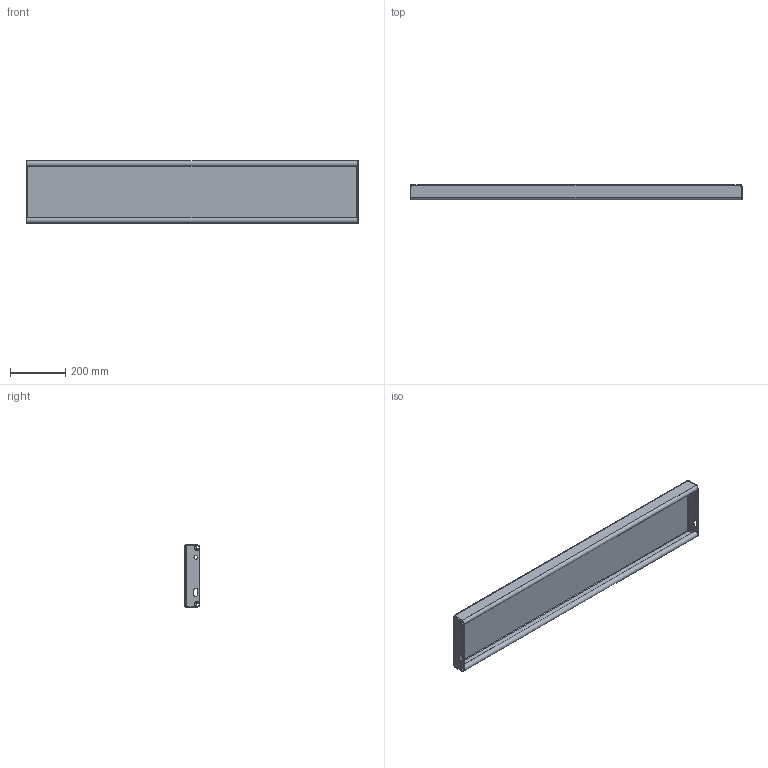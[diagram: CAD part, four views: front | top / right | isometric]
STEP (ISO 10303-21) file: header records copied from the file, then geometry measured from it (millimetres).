
FILE_DESCRIPTION (( 'STEP AP214' ), '1' );
FILE_NAME ('OPTIMO-Tread-Achil-O2-1200x225x57x2-st240-F100290100_plain.STEP', '2021-03-16T08:01:44', ( '' ), ( '' ), 'SwSTEP 2.0', 'SolidWorks 2021', '' );
FILE_SCHEMA (( 'AUTOMOTIVE_DESIGN' ));
Length unit declared in the file: millimetre
Products named in the file (1): OPTIMO-Tread-Achil-O2-1200x225x57x2-st240-F100290100_plain
Bounding box: 1200 x 57 x 225 mm (x, y, z)
Volume: 1751840.7 mm3; surface area: 1025391.3 mm2
Topology: 1 solids, 1 shells, 248 faces, 640 edges, 412 vertices
Faces by surface type: plane 173, bspline 39, cylinder 36
Entity records: 9924 total; most frequent: CARTESIAN_POINT 4092, ORIENTED_EDGE 1280, DIRECTION 1022, EDGE_CURVE 640, VECTOR 490, LINE 490, VERTEX_POINT 412, EDGE_LOOP 274
